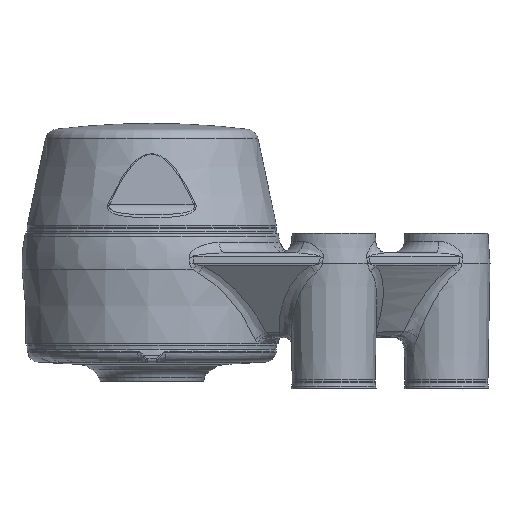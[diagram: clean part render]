
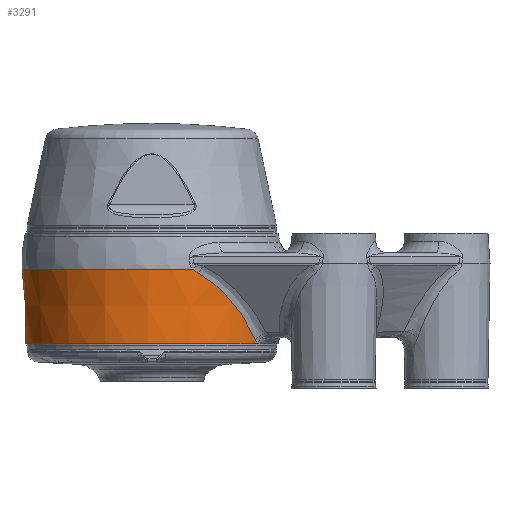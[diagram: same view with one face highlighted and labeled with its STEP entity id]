
A CAD part, left-side view. The second image highlights one B-rep face of the part: STEP entity #3291.
In plain terms, the highlighted conical face has half-angle 2.646 degrees and reference radius 33 mm.
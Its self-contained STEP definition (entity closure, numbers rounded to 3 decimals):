
#275 = ORIENTED_EDGE ( 'NONE', *, *, #30579, .T. ) ;
#288 = ORIENTED_EDGE ( 'NONE', *, *, #465, .T. ) ;
#360 = VERTEX_POINT ( 'NONE', #620 ) ;
#399 = CARTESIAN_POINT ( 'NONE',  ( 30.93, -10.89, 4.466 ) ) ;
#465 = EDGE_CURVE ( 'NONE', #24039, #25232, #33638, .T. ) ;
#620 = CARTESIAN_POINT ( 'NONE',  ( -18.222, -26.282, -13.044 ) ) ;
#746 = CARTESIAN_POINT ( 'NONE',  ( 30.755, -11.334, 4.154 ) ) ;
#942 = AXIS2_PLACEMENT_3D ( 'NONE', #27553, #17303, #32850 ) ;
#1042 = ORIENTED_EDGE ( 'NONE', *, *, #4470, .T. ) ;
#1046 = CARTESIAN_POINT ( 'NONE',  ( 26.089, -19.412, -2.251 ) ) ;
#1370 = CARTESIAN_POINT ( 'NONE',  ( -31.089, -10.477, 4.828 ) ) ;
#1685 = CARTESIAN_POINT ( 'NONE',  ( 0., 31.942, -13.9 ) ) ;
#1701 = CARTESIAN_POINT ( 'NONE',  ( -30.755, -11.334, 4.154 ) ) ;
#1854 = CARTESIAN_POINT ( 'NONE',  ( -22.877, -22.818, -6.655 ) ) ;
#2189 = B_SPLINE_CURVE_WITH_KNOTS ( 'NONE', 3,
 ( #32475, #8406, #5865, #24099 ),
 .UNSPECIFIED., .F., .F.,
 ( 4, 4 ),
 ( 0.005, 0.006 ),
 .UNSPECIFIED. ) ;
#2199 = VERTEX_POINT ( 'NONE', #18752 ) ;
#2372 = VERTEX_POINT ( 'NONE', #17205 ) ;
#3291 = ADVANCED_FACE ( 'NONE', ( #7307 ), #5130, .T. ) ;
#4470 = EDGE_CURVE ( 'NONE', #25232, #2372, #18231, .T. ) ;
#4920 = DIRECTION ( 'NONE',  ( 0., -1., 0. ) ) ;
#5130 = CONICAL_SURFACE ( 'NONE', #12215, 33., 0.046 ) ;
#5188 = VERTEX_POINT ( 'NONE', #13170 ) ;
#5619 = CARTESIAN_POINT ( 'NONE',  ( -31.089, -10.477, 4.828 ) ) ;
#5865 = CARTESIAN_POINT ( 'NONE',  ( -17.995, -26.422, -13.356 ) ) ;
#5985 = CARTESIAN_POINT ( 'NONE',  ( 18.222, -26.282, -13.044 ) ) ;
#5994 = CARTESIAN_POINT ( 'NONE',  ( 18.222, -26.282, -13.044 ) ) ;
#6346 = CARTESIAN_POINT ( 'NONE',  ( -20.589, -24.713, -9.793 ) ) ;
#6399 = DIRECTION ( 'NONE',  ( 0., 0., 1. ) ) ;
#7010 = CIRCLE ( 'NONE', #9712, 31.942 ) ;
#7130 = CARTESIAN_POINT ( 'NONE',  ( -18.222, -26.282, -13.044 ) ) ;
#7200 = ORIENTED_EDGE ( 'NONE', *, *, #20660, .T. ) ;
#7307 = FACE_OUTER_BOUND ( 'NONE', #15276, .T. ) ;
#8060 = CARTESIAN_POINT ( 'NONE',  ( 31.089, -10.477, 4.828 ) ) ;
#8406 = CARTESIAN_POINT ( 'NONE',  ( -17.742, -26.577, -13.643 ) ) ;
#8447 = ORIENTED_EDGE ( 'NONE', *, *, #21797, .T. ) ;
#8883 = CARTESIAN_POINT ( 'NONE',  ( -26.089, -19.412, -2.251 ) ) ;
#9195 = CARTESIAN_POINT ( 'NONE',  ( -30.93, -10.89, 4.466 ) ) ;
#9202 = CARTESIAN_POINT ( 'NONE',  ( -17.471, -26.74, -13.9 ) ) ;
#9712 = AXIS2_PLACEMENT_3D ( 'NONE', #29761, #6399, #16799 ) ;
#10895 = B_SPLINE_CURVE_WITH_KNOTS ( 'NONE', 3,
 ( #12086, #30508, #1701, #9195, #30339, #1370 ),
 .UNSPECIFIED., .F., .F.,
 ( 4, 2, 4 ),
 ( 0., 0.001, 0.002 ),
 .UNSPECIFIED. ) ;
#10962 = CARTESIAN_POINT ( 'NONE',  ( 30.663, -11.563, 4.011 ) ) ;
#11269 = CARTESIAN_POINT ( 'NONE',  ( -29.83, -13.574, 2.872 ) ) ;
#12086 = CARTESIAN_POINT ( 'NONE',  ( -30.566, -11.798, 3.878 ) ) ;
#12111 = B_SPLINE_CURVE_WITH_KNOTS ( 'NONE', 3,
 ( #8060, #24435, #399, #746, #10962, #21525 ),
 .UNSPECIFIED., .F., .F.,
 ( 4, 2, 4 ),
 ( 0., 0.001, 0.002 ),
 .UNSPECIFIED. ) ;
#12215 = AXIS2_PLACEMENT_3D ( 'NONE', #27165, #14215, #4920 ) ;
#12786 = AXIS2_PLACEMENT_3D ( 'NONE', #13966, #17023, #27433 ) ;
#12862 = CARTESIAN_POINT ( 'NONE',  ( 27.095, -18.111, -0.873 ) ) ;
#13170 = CARTESIAN_POINT ( 'NONE',  ( 30.566, -11.798, 3.878 ) ) ;
#13619 = ORIENTED_EDGE ( 'NONE', *, *, #18313, .T. ) ;
#13747 = B_SPLINE_CURVE_WITH_KNOTS ( 'NONE', 3,
 ( #5994, #13844, #16734, #26966 ),
 .UNSPECIFIED., .F., .F.,
 ( 4, 4 ),
 ( 0., 0.001 ),
 .UNSPECIFIED. ) ;
#13799 = CARTESIAN_POINT ( 'NONE',  ( 0., 0., -13.9 ) ) ;
#13835 = CARTESIAN_POINT ( 'NONE',  ( 22.877, -22.818, -6.655 ) ) ;
#13844 = CARTESIAN_POINT ( 'NONE',  ( 17.993, -26.424, -13.359 ) ) ;
#13966 = CARTESIAN_POINT ( 'NONE',  ( 0., 0., 4.828 ) ) ;
#14215 = DIRECTION ( 'NONE',  ( 0., 0., 1. ) ) ;
#15276 = EDGE_LOOP ( 'NONE', ( #13619, #17935, #21223, #275, #25065, #288, #1042, #21916, #7200, #8447 ) ) ;
#15586 = CARTESIAN_POINT ( 'NONE',  ( 23.98, -21.766, -5.142 ) ) ;
#16583 = CARTESIAN_POINT ( 'NONE',  ( 0., 32.807, 4.828 ) ) ;
#16666 = EDGE_CURVE ( 'NONE', #2199, #24039, #10895, .T. ) ;
#16734 = CARTESIAN_POINT ( 'NONE',  ( 17.742, -26.577, -13.643 ) ) ;
#16799 = DIRECTION ( 'NONE',  ( 0., 1., 0. ) ) ;
#17023 = DIRECTION ( 'NONE',  ( 0., 0., -1. ) ) ;
#17205 = CARTESIAN_POINT ( 'NONE',  ( 31.089, -10.477, 4.828 ) ) ;
#17303 = DIRECTION ( 'NONE',  ( 0., 0., -1. ) ) ;
#17502 = VERTEX_POINT ( 'NONE', #9202 ) ;
#17626 = VERTEX_POINT ( 'NONE', #31353 ) ;
#17935 = ORIENTED_EDGE ( 'NONE', *, *, #22513, .T. ) ;
#18231 = CIRCLE ( 'NONE', #12786, 32.807 ) ;
#18233 = DIRECTION ( 'NONE',  ( 0., 0., 1. ) ) ;
#18313 = EDGE_CURVE ( 'NONE', #17626, #29985, #7010, .T. ) ;
#18752 = CARTESIAN_POINT ( 'NONE',  ( -30.566, -11.798, 3.878 ) ) ;
#19124 = CARTESIAN_POINT ( 'NONE',  ( -23.98, -21.766, -5.142 ) ) ;
#19740 = VERTEX_POINT ( 'NONE', #26953 ) ;
#20383 = AXIS2_PLACEMENT_3D ( 'NONE', #13799, #18233, #20947 ) ;
#20660 = EDGE_CURVE ( 'NONE', #5188, #19740, #27706, .T. ) ;
#20947 = DIRECTION ( 'NONE',  ( 0., 1., 0. ) ) ;
#21223 = ORIENTED_EDGE ( 'NONE', *, *, #28502, .T. ) ;
#21525 = CARTESIAN_POINT ( 'NONE',  ( 30.566, -11.798, 3.878 ) ) ;
#21653 = CARTESIAN_POINT ( 'NONE',  ( 28.976, -15.175, 1.703 ) ) ;
#21667 = CARTESIAN_POINT ( 'NONE',  ( -28.976, -15.174, 1.704 ) ) ;
#21797 = EDGE_CURVE ( 'NONE', #19740, #17626, #13747, .T. ) ;
#21916 = ORIENTED_EDGE ( 'NONE', *, *, #22029, .T. ) ;
#22029 = EDGE_CURVE ( 'NONE', #2372, #5188, #12111, .T. ) ;
#22513 = EDGE_CURVE ( 'NONE', #29985, #17502, #28578, .T. ) ;
#23417 = CARTESIAN_POINT ( 'NONE',  ( 19.417, -25.546, -11.402 ) ) ;
#24039 = VERTEX_POINT ( 'NONE', #5619 ) ;
#24064 = CARTESIAN_POINT ( 'NONE',  ( -27.095, -18.111, -0.873 ) ) ;
#24099 = CARTESIAN_POINT ( 'NONE',  ( -18.222, -26.282, -13.044 ) ) ;
#24393 = CARTESIAN_POINT ( 'NONE',  ( 29.83, -13.574, 2.872 ) ) ;
#24435 = CARTESIAN_POINT ( 'NONE',  ( 31.013, -10.676, 4.636 ) ) ;
#25065 = ORIENTED_EDGE ( 'NONE', *, *, #16666, .T. ) ;
#25232 = VERTEX_POINT ( 'NONE', #16583 ) ;
#26953 = CARTESIAN_POINT ( 'NONE',  ( 18.222, -26.282, -13.044 ) ) ;
#26966 = CARTESIAN_POINT ( 'NONE',  ( 17.471, -26.74, -13.9 ) ) ;
#27165 = CARTESIAN_POINT ( 'NONE',  ( 0., 0., 9. ) ) ;
#27256 = B_SPLINE_CURVE_WITH_KNOTS ( 'NONE', 3,
 ( #7130, #29706, #6346, #1854, #19124, #8883, #24064, #21667, #11269, #32092 ),
 .UNSPECIFIED., .F., .F.,
 ( 4, 2, 2, 2, 4 ),
 ( 0., 0.006, 0.013, 0.019, 0.026 ),
 .UNSPECIFIED. ) ;
#27433 = DIRECTION ( 'NONE',  ( 0., 1., 0. ) ) ;
#27553 = CARTESIAN_POINT ( 'NONE',  ( 0., 0., 4.828 ) ) ;
#27706 = B_SPLINE_CURVE_WITH_KNOTS ( 'NONE', 3,
 ( #33355, #24393, #21653, #12862, #1046, #15586, #13835, #29349, #23417, #5985 ),
 .UNSPECIFIED., .F., .F.,
 ( 4, 2, 2, 2, 4 ),
 ( 0., 0.006, 0.013, 0.019, 0.026 ),
 .UNSPECIFIED. ) ;
#28502 = EDGE_CURVE ( 'NONE', #17502, #360, #2189, .T. ) ;
#28578 = CIRCLE ( 'NONE', #20383, 31.942 ) ;
#29349 = CARTESIAN_POINT ( 'NONE',  ( 20.589, -24.713, -9.793 ) ) ;
#29706 = CARTESIAN_POINT ( 'NONE',  ( -19.417, -25.546, -11.402 ) ) ;
#29761 = CARTESIAN_POINT ( 'NONE',  ( 0., 0., -13.9 ) ) ;
#29985 = VERTEX_POINT ( 'NONE', #1685 ) ;
#30339 = CARTESIAN_POINT ( 'NONE',  ( -31.013, -10.676, 4.636 ) ) ;
#30508 = CARTESIAN_POINT ( 'NONE',  ( -30.663, -11.563, 4.011 ) ) ;
#30579 = EDGE_CURVE ( 'NONE', #360, #2199, #27256, .T. ) ;
#31353 = CARTESIAN_POINT ( 'NONE',  ( 17.471, -26.74, -13.9 ) ) ;
#32092 = CARTESIAN_POINT ( 'NONE',  ( -30.566, -11.798, 3.878 ) ) ;
#32475 = CARTESIAN_POINT ( 'NONE',  ( -17.471, -26.74, -13.9 ) ) ;
#32850 = DIRECTION ( 'NONE',  ( 0., 1., 0. ) ) ;
#33355 = CARTESIAN_POINT ( 'NONE',  ( 30.566, -11.798, 3.878 ) ) ;
#33638 = CIRCLE ( 'NONE', #942, 32.807 ) ;
